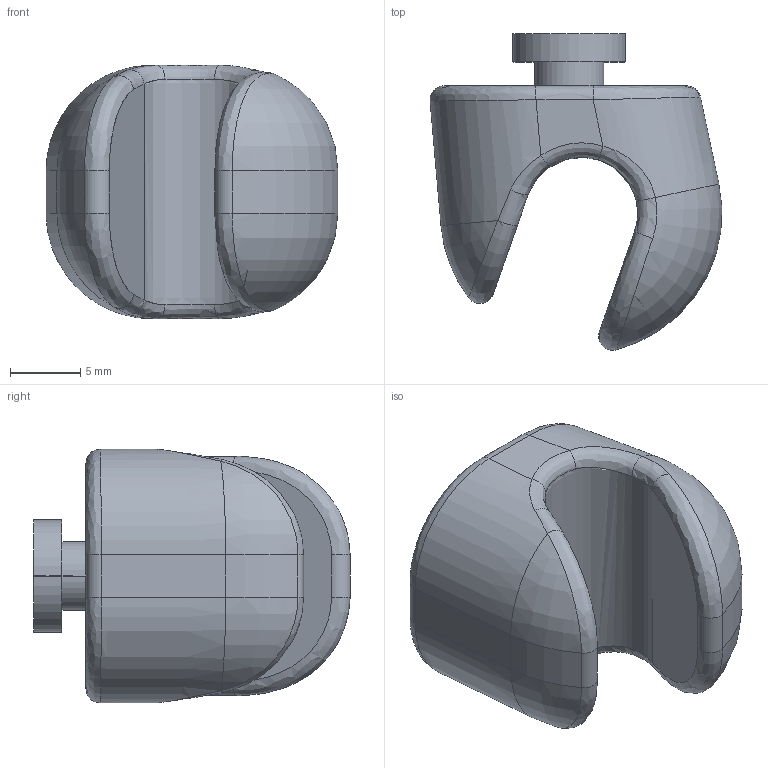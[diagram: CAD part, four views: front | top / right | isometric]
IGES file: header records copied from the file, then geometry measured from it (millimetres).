
Global section: file name: Filename.iges; native system: Open CASCADE 7.5; preprocessor: Open CASCADE IGES processor 7.5; date: 20210414.164134; units: millimetre
Bounding box: 20.73 x 22.47 x 18 mm (x, y, z)
Surface area: 1745.3 mm2 (no closed solid volume)
Topology: 0 solids, 0 shells, 48 faces, 220 edges, 220 vertices
Faces by surface type: revolution 26, bspline 22
